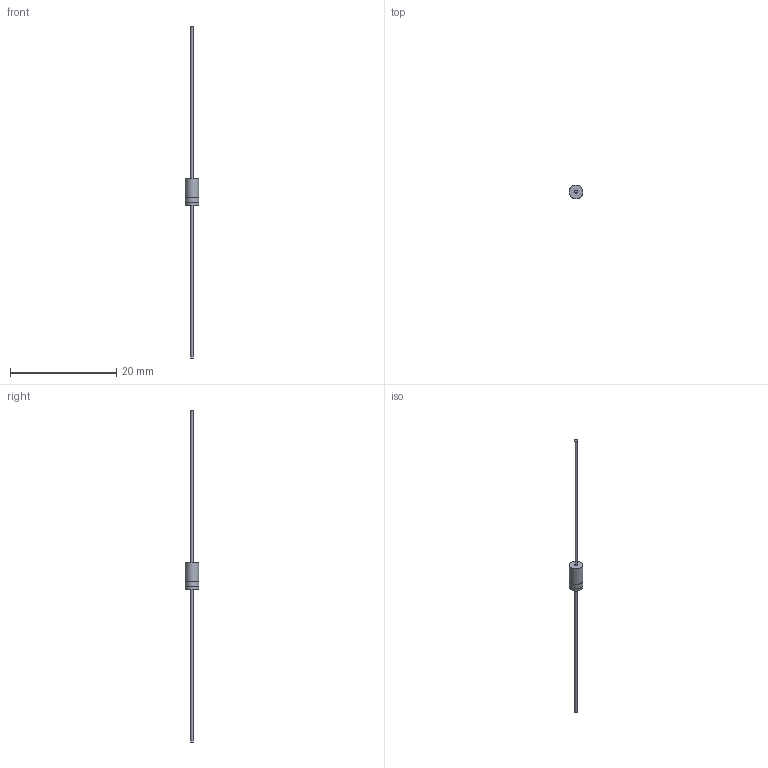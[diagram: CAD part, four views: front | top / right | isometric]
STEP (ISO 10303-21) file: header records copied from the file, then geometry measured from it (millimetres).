
FILE_DESCRIPTION(/* description */ (''),/* implementation_level */ '2;1');
FILE_NAME(/* name */ 'P1_A-405.stp',/* time_stamp */ '2020-07-29T13:44:56+02:00',/* author */ (''),/* organization */ (''),/* preprocessor_version */ 'ST-DEVELOPER v14',/* originating_system */ 'SIEMENS PLM Software NX 8.0',/* authorisation */ '');
FILE_SCHEMA (('AUTOMOTIVE_DESIGN { 1 0 10303 214 3 1 1 1 }'));
Length unit declared in the file: millimetre
Products named in the file (1): 001003-02897-Body A405kopie2
Bounding box: 2.6 x 2.6 x 62.5 mm (x, y, z)
Volume: 40 mm3; surface area: 167.6 mm2
Topology: 4 solids, 4 shells, 17 faces, 22 edges, 15 vertices
Faces by surface type: plane 10, cylinder 7
Full cylindrical faces by diameter (mm): 0.54 x2, 2.5 x1, 2.55 x1, 2.6 x3
Entity records: 449 total; most frequent: DIRECTION 64, CARTESIAN_POINT 51, AXIS2_PLACEMENT_3D 32, EDGE_LOOP 28, ORIENTED_EDGE 28, FACE_BOUND 22, PROPERTY_DEFINITION 21, PROPERTY_DEFINITION_REPRESENTATION 17
